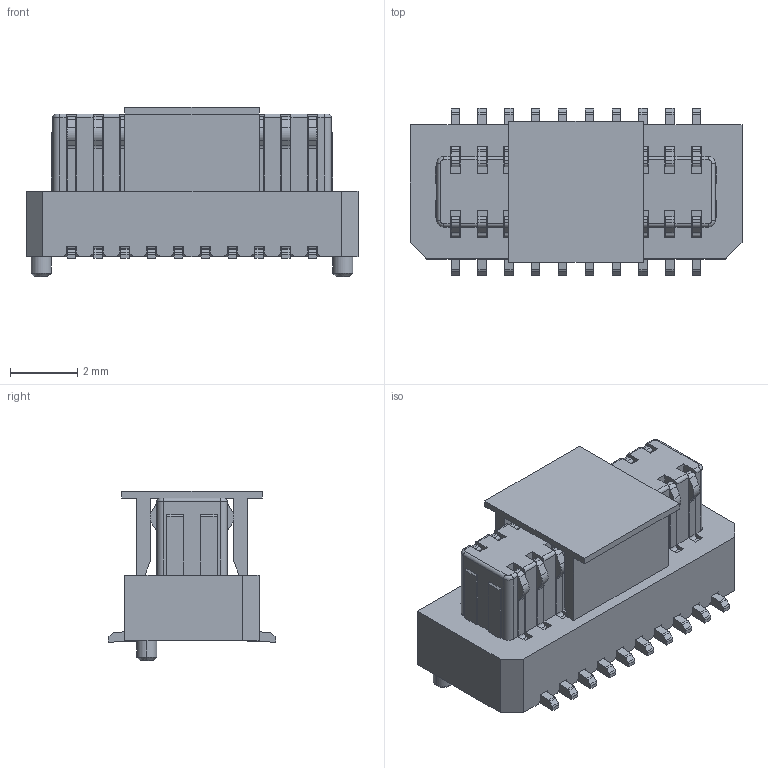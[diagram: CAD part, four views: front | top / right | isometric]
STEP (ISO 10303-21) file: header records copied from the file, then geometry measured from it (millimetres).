
FILE_DESCRIPTION(('CATIA V5 STEP Exchange'),'2;1');
FILE_NAME('F:\黄富鸿\板对板\PBB08B\公座\H4.3\带盖\HC-PBB08B-1-20-M-H4.3-XX-R-P-06 (BTB0.8 单槽 B型公座 立贴 带柱 编带+盖)-HCTL.stp','2026-01-28T06:07:52+00:00',('none'),('none'),'CATIA Version 5 Release 20 GA (IN-10)','CATIA V5 STEP AP203','none');
FILE_SCHEMA(('CONFIG_CONTROL_DESIGN'));
Length unit declared in the file: millimetre
Products named in the file (1): Part1
Bounding box: 9.9 x 5 x 5.05 mm (x, y, z)
Volume: 122.1 mm3; surface area: 574.5 mm2
Topology: 22 solids, 22 shells, 1127 faces, 3308 edges, 2188 vertices
Faces by surface type: plane 767, cylinder 352, cone 4, torus 4
Entity records: 34621 total; most frequent: ORIENTED_EDGE 6616, CARTESIAN_POINT 6219, DIRECTION 4752, EDGE_CURVE 3308, VECTOR 2596, LINE 2596, VERTEX_POINT 2188, AXIS2_PLACEMENT_3D 1435
